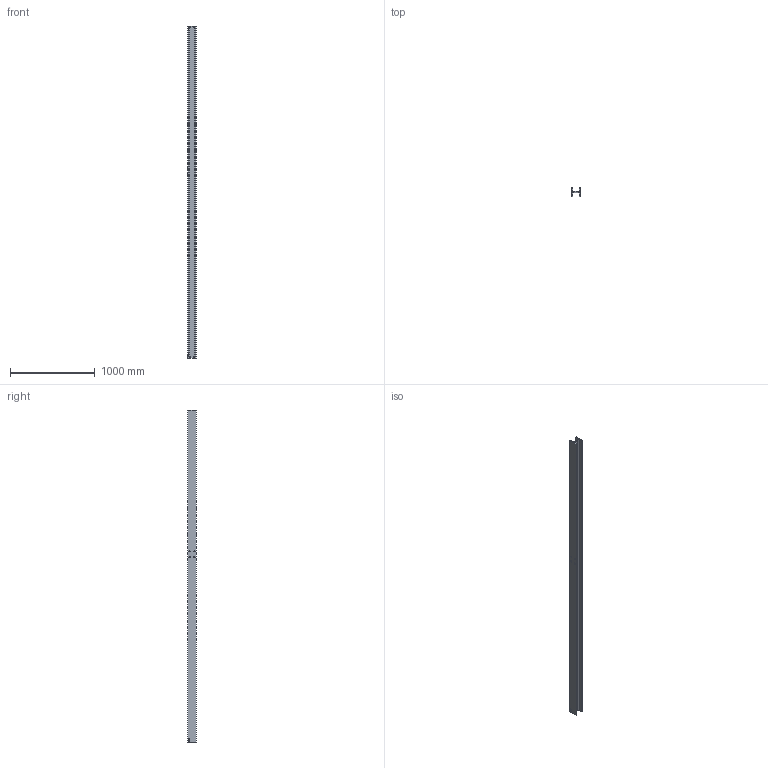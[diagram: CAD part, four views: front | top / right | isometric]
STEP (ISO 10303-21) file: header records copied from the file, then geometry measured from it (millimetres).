
FILE_DESCRIPTION (( 'STEP AP214' ), '1' );
FILE_NAME ('CCJ029-REP.022 - POTEAU TYPE 3.STEP', '2025-02-13T08:46:18', ( '' ), ( '' ), 'SwSTEP 2.0', 'SolidWorks 2021', '' );
FILE_SCHEMA (( 'AUTOMOTIVE_DESIGN' ));
Length unit declared in the file: millimetre
Products named in the file (1): CCJ029-REP.022 - POTEAU TYPE 3
Bounding box: 100 x 100 x 3910 mm (x, y, z)
Volume: 10169640.6 mm3; surface area: 2224088.1 mm2
Topology: 1 solids, 1 shells, 71 faces, 195 edges, 130 vertices
Faces by surface type: plane 30, bspline 21, cylinder 20
Entity records: 3765 total; most frequent: CARTESIAN_POINT 1994, ORIENTED_EDGE 390, DIRECTION 295, EDGE_CURVE 195, VERTEX_POINT 130, LINE 113, VECTOR 113, AXIS2_PLACEMENT_3D 91
